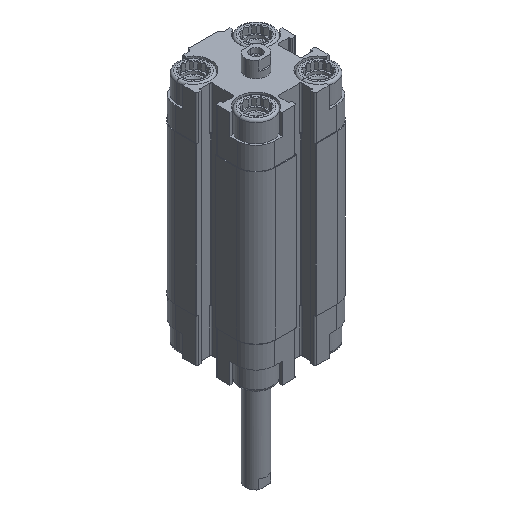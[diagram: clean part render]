
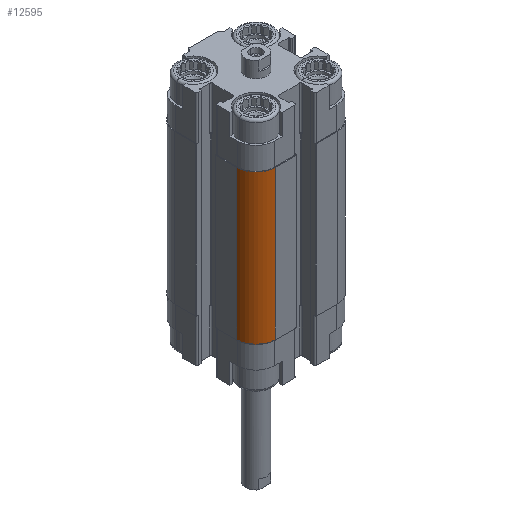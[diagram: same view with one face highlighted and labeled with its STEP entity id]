
A CAD part, isometric view. The second image highlights one B-rep face of the part: STEP entity #12595.
In plain terms, the highlighted cylindrical face has radius 5.5 mm (diameter 11 mm), a partial arc.
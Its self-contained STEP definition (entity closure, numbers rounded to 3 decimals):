
#49 = VERTEX_POINT ( 'NONE', #9689 ) ;
#207 = DIRECTION ( 'NONE',  ( -1., 0., 0. ) ) ;
#302 = CIRCLE ( 'NONE', #16321, 5.5 ) ;
#567 = DIRECTION ( 'NONE',  ( 0., 0., 1. ) ) ;
#2446 = FACE_OUTER_BOUND ( 'NONE', #12523, .T. ) ;
#2858 = VECTOR ( 'NONE', #567, 1000. ) ;
#3371 = CARTESIAN_POINT ( 'NONE',  ( -9., -14.5, -55.5 ) ) ;
#3383 = ORIENTED_EDGE ( 'NONE', *, *, #11810, .F. ) ;
#4483 = CIRCLE ( 'NONE', #17072, 5.5 ) ;
#5803 = ORIENTED_EDGE ( 'NONE', *, *, #15065, .T. ) ;
#6443 = EDGE_CURVE ( 'NONE', #9077, #14302, #4483, .T. ) ;
#6942 = CYLINDRICAL_SURFACE ( 'NONE', #13578, 5.5 ) ;
#7004 = VECTOR ( 'NONE', #16676, 1000. ) ;
#7397 = CARTESIAN_POINT ( 'NONE',  ( -14.5, -9., -12.5 ) ) ;
#7452 = CARTESIAN_POINT ( 'NONE',  ( -9., -9., -55.5 ) ) ;
#8182 = CARTESIAN_POINT ( 'NONE',  ( -9., -14.5, -12.5 ) ) ;
#9077 = VERTEX_POINT ( 'NONE', #7397 ) ;
#9689 = CARTESIAN_POINT ( 'NONE',  ( -14.5, -9., -55.5 ) ) ;
#10223 = DIRECTION ( 'NONE',  ( 0., 0., 1. ) ) ;
#11196 = CARTESIAN_POINT ( 'NONE',  ( -14.5, -9., -55.5 ) ) ;
#11810 = EDGE_CURVE ( 'NONE', #49, #9077, #12462, .T. ) ;
#12313 = CARTESIAN_POINT ( 'NONE',  ( -9., -9., -55.5 ) ) ;
#12462 = LINE ( 'NONE', #11196, #7004 ) ;
#12523 = EDGE_LOOP ( 'NONE', ( #14185, #3383, #13560, #5803 ) ) ;
#12595 = ADVANCED_FACE ( 'NONE', ( #2446 ), #6942, .T. ) ;
#12597 = DIRECTION ( 'NONE',  ( 0., 0., -1. ) ) ;
#13389 = CARTESIAN_POINT ( 'NONE',  ( -9., -14.5, -55.5 ) ) ;
#13560 = ORIENTED_EDGE ( 'NONE', *, *, #15952, .T. ) ;
#13578 = AXIS2_PLACEMENT_3D ( 'NONE', #12313, #12597, #207 ) ;
#13735 = VERTEX_POINT ( 'NONE', #13389 ) ;
#13988 = DIRECTION ( 'NONE',  ( -1., 0., 0. ) ) ;
#14185 = ORIENTED_EDGE ( 'NONE', *, *, #6443, .F. ) ;
#14302 = VERTEX_POINT ( 'NONE', #8182 ) ;
#14338 = DIRECTION ( 'NONE',  ( 0., 0., 1. ) ) ;
#15065 = EDGE_CURVE ( 'NONE', #13735, #14302, #15475, .T. ) ;
#15475 = LINE ( 'NONE', #3371, #2858 ) ;
#15698 = DIRECTION ( 'NONE',  ( -1., 0., 0. ) ) ;
#15952 = EDGE_CURVE ( 'NONE', #49, #13735, #302, .T. ) ;
#16321 = AXIS2_PLACEMENT_3D ( 'NONE', #7452, #14338, #15698 ) ;
#16676 = DIRECTION ( 'NONE',  ( 0., 0., 1. ) ) ;
#17072 = AXIS2_PLACEMENT_3D ( 'NONE', #17122, #10223, #13988 ) ;
#17122 = CARTESIAN_POINT ( 'NONE',  ( -9., -9., -12.5 ) ) ;
